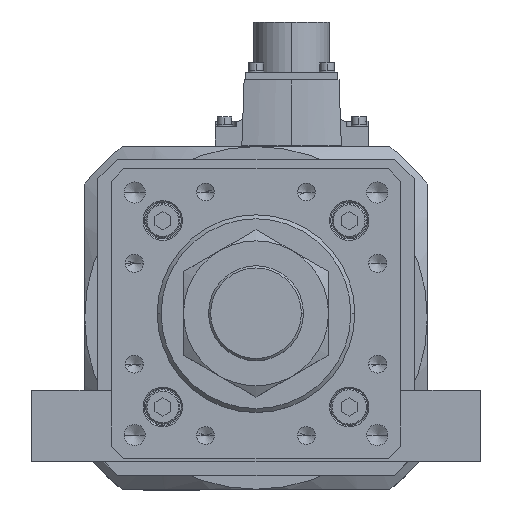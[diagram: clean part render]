
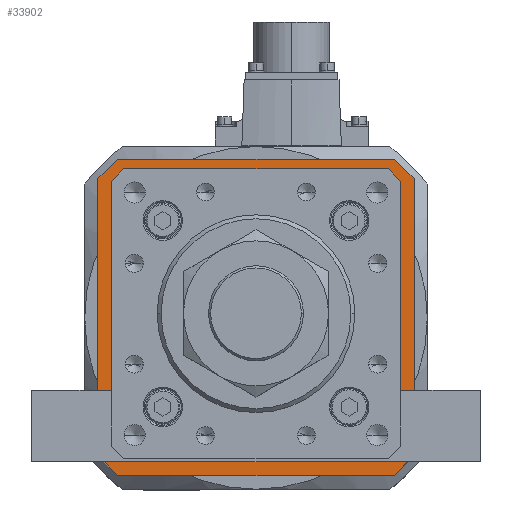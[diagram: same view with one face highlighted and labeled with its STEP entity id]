
A CAD part, top view. The second image highlights one B-rep face of the part: STEP entity #33902.
In plain terms, the highlighted planar face has unit normal (0, 0, 1).
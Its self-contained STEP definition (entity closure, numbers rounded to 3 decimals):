
#56 = VECTOR ( 'NONE', #29740, 1000. ) ;
#210 = VERTEX_POINT ( 'NONE', #15013 ) ;
#479 = CARTESIAN_POINT ( 'NONE',  ( 60., 52.5, -119. ) ) ;
#487 = DIRECTION ( 'NONE',  ( 0.707, -0.707, 0. ) ) ;
#1247 = VERTEX_POINT ( 'NONE', #22596 ) ;
#1581 = EDGE_CURVE ( 'NONE', #3584, #210, #2207, .T. ) ;
#1666 = DIRECTION ( 'NONE',  ( 1., 0., 0. ) ) ;
#2084 = CARTESIAN_POINT ( 'NONE',  ( 0., 0., -119. ) ) ;
#2207 = LINE ( 'NONE', #5575, #10991 ) ;
#2271 = CARTESIAN_POINT ( 'NONE',  ( 60., -52.5, -119. ) ) ;
#2463 = VECTOR ( 'NONE', #12205, 1000. ) ;
#2906 = LINE ( 'NONE', #2928, #2463 ) ;
#2910 = VERTEX_POINT ( 'NONE', #14970 ) ;
#2928 = CARTESIAN_POINT ( 'NONE',  ( -49.8, -53.5, -119. ) ) ;
#2985 = VECTOR ( 'NONE', #1666, 1000. ) ;
#3128 = DIRECTION ( 'NONE',  ( 0.707, 0.707, 0. ) ) ;
#3529 = CARTESIAN_POINT ( 'NONE',  ( 60., 52.5, -119. ) ) ;
#3584 = VERTEX_POINT ( 'NONE', #23963 ) ;
#3838 = VECTOR ( 'NONE', #22519, 1000. ) ;
#3966 = AXIS2_PLACEMENT_3D ( 'NONE', #2084, #28810, #10605 ) ;
#4284 = CARTESIAN_POINT ( 'NONE',  ( -52.5, 60., -119. ) ) ;
#4647 = CARTESIAN_POINT ( 'NONE',  ( -53.5, 49.593, -119. ) ) ;
#5389 = LINE ( 'NONE', #17724, #18287 ) ;
#5459 = LINE ( 'NONE', #25372, #14200 ) ;
#5575 = CARTESIAN_POINT ( 'NONE',  ( 52.5, -60., -119. ) ) ;
#6104 = LINE ( 'NONE', #479, #36606 ) ;
#6367 = LINE ( 'NONE', #17076, #29495 ) ;
#6491 = EDGE_CURVE ( 'NONE', #1247, #13389, #37022, .T. ) ;
#6629 = VERTEX_POINT ( 'NONE', #4284 ) ;
#6980 = EDGE_CURVE ( 'NONE', #21490, #9525, #22178, .T. ) ;
#7185 = CARTESIAN_POINT ( 'NONE',  ( -49.446, 53.646, -119. ) ) ;
#7450 = ORIENTED_EDGE ( 'NONE', *, *, #22965, .T. ) ;
#7641 = ORIENTED_EDGE ( 'NONE', *, *, #18076, .T. ) ;
#8093 = EDGE_CURVE ( 'NONE', #34737, #25323, #31803, .T. ) ;
#8489 = CARTESIAN_POINT ( 'NONE',  ( -53.646, -49.446, -119. ) ) ;
#9129 = VERTEX_POINT ( 'NONE', #34886 ) ;
#9163 = LINE ( 'NONE', #7185, #27654 ) ;
#9525 = VERTEX_POINT ( 'NONE', #4647 ) ;
#9557 = CARTESIAN_POINT ( 'NONE',  ( -52.5, 60., -119. ) ) ;
#9994 = CARTESIAN_POINT ( 'NONE',  ( -49.593, -53.5, -119. ) ) ;
#10103 = ORIENTED_EDGE ( 'NONE', *, *, #29849, .T. ) ;
#10276 = ORIENTED_EDGE ( 'NONE', *, *, #13494, .F. ) ;
#10605 = DIRECTION ( 'NONE',  ( 1., 0., 0. ) ) ;
#10991 = VECTOR ( 'NONE', #20769, 1000. ) ;
#11044 = VERTEX_POINT ( 'NONE', #9994 ) ;
#11443 = VERTEX_POINT ( 'NONE', #33722 ) ;
#11610 = CARTESIAN_POINT ( 'NONE',  ( -53.5, 49.8, -119. ) ) ;
#11682 = LINE ( 'NONE', #31473, #3838 ) ;
#11690 = DIRECTION ( 'NONE',  ( -0.707, -0.707, 0. ) ) ;
#12205 = DIRECTION ( 'NONE',  ( -1., 0., 0. ) ) ;
#12279 = LINE ( 'NONE', #9557, #32651 ) ;
#12392 = LINE ( 'NONE', #17139, #38281 ) ;
#13117 = ORIENTED_EDGE ( 'NONE', *, *, #26548, .T. ) ;
#13229 = EDGE_CURVE ( 'NONE', #9525, #34237, #9163, .T. ) ;
#13329 = ORIENTED_EDGE ( 'NONE', *, *, #34919, .F. ) ;
#13389 = VERTEX_POINT ( 'NONE', #2271 ) ;
#13494 = EDGE_CURVE ( 'NONE', #11443, #27018, #6367, .T. ) ;
#13602 = ORIENTED_EDGE ( 'NONE', *, *, #36822, .F. ) ;
#13725 = ORIENTED_EDGE ( 'NONE', *, *, #19914, .F. ) ;
#13921 = CARTESIAN_POINT ( 'NONE',  ( 52.5, 60., -119. ) ) ;
#14077 = DIRECTION ( 'NONE',  ( 0., -1., 0. ) ) ;
#14200 = VECTOR ( 'NONE', #14077, 1000. ) ;
#14903 = ORIENTED_EDGE ( 'NONE', *, *, #6980, .T. ) ;
#14920 = CARTESIAN_POINT ( 'NONE',  ( 53.646, 49.446, -119. ) ) ;
#14970 = CARTESIAN_POINT ( 'NONE',  ( 53.5, -49.593, -119. ) ) ;
#15013 = CARTESIAN_POINT ( 'NONE',  ( -52.5, -60., -119. ) ) ;
#16179 = DIRECTION ( 'NONE',  ( 0.707, 0.707, 0. ) ) ;
#16711 = CARTESIAN_POINT ( 'NONE',  ( 52.5, 60., -119. ) ) ;
#17049 = VERTEX_POINT ( 'NONE', #13921 ) ;
#17076 = CARTESIAN_POINT ( 'NONE',  ( -60., 52.5, -119. ) ) ;
#17139 = CARTESIAN_POINT ( 'NONE',  ( 49.446, -53.646, -119. ) ) ;
#17201 = DIRECTION ( 'NONE',  ( 0., 1., 0. ) ) ;
#17443 = LINE ( 'NONE', #32433, #34116 ) ;
#17724 = CARTESIAN_POINT ( 'NONE',  ( 60., -52.5, -119. ) ) ;
#18076 = EDGE_CURVE ( 'NONE', #25323, #2910, #5459, .T. ) ;
#18287 = VECTOR ( 'NONE', #11690, 1000. ) ;
#18442 = VECTOR ( 'NONE', #20622, 1000. ) ;
#18538 = CARTESIAN_POINT ( 'NONE',  ( -49.593, 53.5, -119. ) ) ;
#18668 = DIRECTION ( 'NONE',  ( -0.707, 0.707, 0. ) ) ;
#19587 = CARTESIAN_POINT ( 'NONE',  ( -53.5, -49.593, -119. ) ) ;
#19878 = VECTOR ( 'NONE', #22942, 1000. ) ;
#19914 = EDGE_CURVE ( 'NONE', #13389, #3584, #5389, .T. ) ;
#20113 = DIRECTION ( 'NONE',  ( -0.707, -0.707, 0. ) ) ;
#20153 = FACE_BOUND ( 'NONE', #36878, .T. ) ;
#20622 = DIRECTION ( 'NONE',  ( 0., 1., 0. ) ) ;
#20769 = DIRECTION ( 'NONE',  ( -1., 0., 0. ) ) ;
#21490 = VERTEX_POINT ( 'NONE', #19587 ) ;
#21527 = FACE_OUTER_BOUND ( 'NONE', #22096, .T. ) ;
#21946 = EDGE_CURVE ( 'NONE', #34237, #34737, #11682, .T. ) ;
#22096 = EDGE_LOOP ( 'NONE', ( #13329, #26225, #10276, #25873, #26293, #13725, #33832, #13602 ) ) ;
#22178 = LINE ( 'NONE', #11610, #18442 ) ;
#22519 = DIRECTION ( 'NONE',  ( 1., 0., 0. ) ) ;
#22596 = CARTESIAN_POINT ( 'NONE',  ( 60., 52.5, -119. ) ) ;
#22942 = DIRECTION ( 'NONE',  ( -0.707, 0.707, 0. ) ) ;
#22965 = EDGE_CURVE ( 'NONE', #11044, #21490, #29163, .T. ) ;
#23963 = CARTESIAN_POINT ( 'NONE',  ( 52.5, -60., -119. ) ) ;
#25323 = VERTEX_POINT ( 'NONE', #37360 ) ;
#25372 = CARTESIAN_POINT ( 'NONE',  ( 53.5, -49.8, -119. ) ) ;
#25873 = ORIENTED_EDGE ( 'NONE', *, *, #30008, .F. ) ;
#26225 = ORIENTED_EDGE ( 'NONE', *, *, #31244, .F. ) ;
#26279 = CARTESIAN_POINT ( 'NONE',  ( -60., 52.5, -119. ) ) ;
#26293 = ORIENTED_EDGE ( 'NONE', *, *, #1581, .F. ) ;
#26548 = EDGE_CURVE ( 'NONE', #9129, #11044, #2906, .T. ) ;
#27018 = VERTEX_POINT ( 'NONE', #26279 ) ;
#27654 = VECTOR ( 'NONE', #16179, 1000. ) ;
#28302 = PLANE ( 'NONE',  #3966 ) ;
#28810 = DIRECTION ( 'NONE',  ( 0., 0., 1. ) ) ;
#29163 = LINE ( 'NONE', #8489, #19878 ) ;
#29495 = VECTOR ( 'NONE', #17201, 1000. ) ;
#29722 = ORIENTED_EDGE ( 'NONE', *, *, #21946, .T. ) ;
#29740 = DIRECTION ( 'NONE',  ( 0., -1., 0. ) ) ;
#29849 = EDGE_CURVE ( 'NONE', #2910, #9129, #12392, .T. ) ;
#30008 = EDGE_CURVE ( 'NONE', #210, #11443, #17443, .T. ) ;
#30435 = VECTOR ( 'NONE', #487, 1000. ) ;
#31244 = EDGE_CURVE ( 'NONE', #27018, #6629, #12279, .T. ) ;
#31259 = ORIENTED_EDGE ( 'NONE', *, *, #13229, .T. ) ;
#31473 = CARTESIAN_POINT ( 'NONE',  ( 49.8, 53.5, -119. ) ) ;
#31803 = LINE ( 'NONE', #14920, #30435 ) ;
#32139 = LINE ( 'NONE', #16711, #2985 ) ;
#32433 = CARTESIAN_POINT ( 'NONE',  ( -52.5, -60., -119. ) ) ;
#32651 = VECTOR ( 'NONE', #3128, 1000. ) ;
#33319 = CARTESIAN_POINT ( 'NONE',  ( 49.593, 53.5, -119. ) ) ;
#33722 = CARTESIAN_POINT ( 'NONE',  ( -60., -52.5, -119. ) ) ;
#33832 = ORIENTED_EDGE ( 'NONE', *, *, #6491, .F. ) ;
#33902 = ADVANCED_FACE ( 'NONE', ( #20153, #21527 ), #28302, .T. ) ;
#34116 = VECTOR ( 'NONE', #18668, 1000. ) ;
#34237 = VERTEX_POINT ( 'NONE', #18538 ) ;
#34737 = VERTEX_POINT ( 'NONE', #33319 ) ;
#34886 = CARTESIAN_POINT ( 'NONE',  ( 49.593, -53.5, -119. ) ) ;
#34919 = EDGE_CURVE ( 'NONE', #6629, #17049, #32139, .T. ) ;
#35611 = DIRECTION ( 'NONE',  ( 0.707, -0.707, 0. ) ) ;
#36606 = VECTOR ( 'NONE', #35611, 1000. ) ;
#36822 = EDGE_CURVE ( 'NONE', #17049, #1247, #6104, .T. ) ;
#36878 = EDGE_LOOP ( 'NONE', ( #29722, #38046, #7641, #10103, #13117, #7450, #14903, #31259 ) ) ;
#37022 = LINE ( 'NONE', #3529, #56 ) ;
#37360 = CARTESIAN_POINT ( 'NONE',  ( 53.5, 49.593, -119. ) ) ;
#38046 = ORIENTED_EDGE ( 'NONE', *, *, #8093, .T. ) ;
#38281 = VECTOR ( 'NONE', #20113, 1000. ) ;
